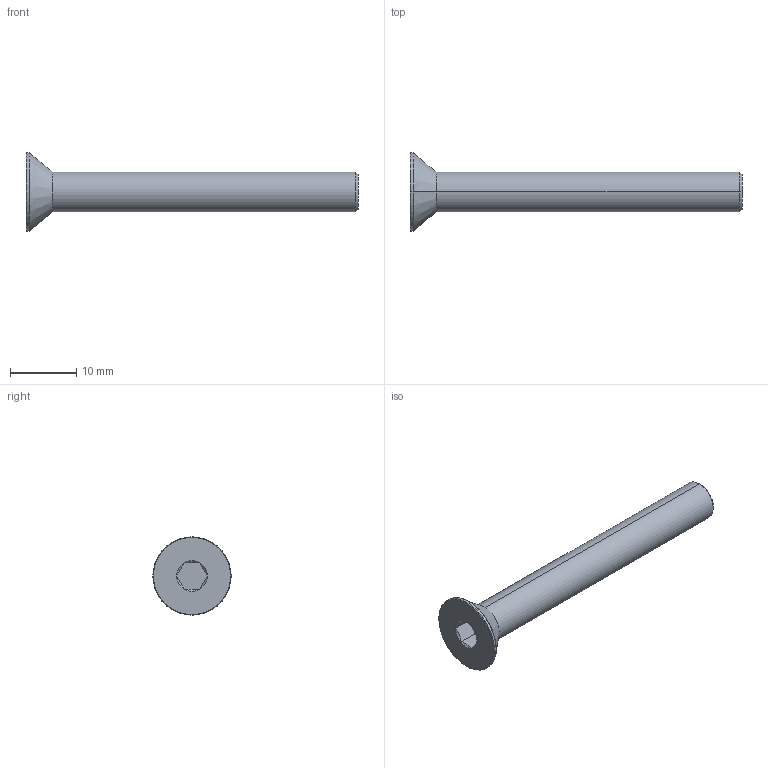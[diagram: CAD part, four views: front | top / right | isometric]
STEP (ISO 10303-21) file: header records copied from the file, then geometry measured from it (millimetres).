
FILE_DESCRIPTION (( 'STEP AP203' ), '1' );
FILE_NAME ('LGDB-304-M6x50.STEP', '2026-08-12T01:38:30', ( '' ), ( '' ), 'SwSTEP 2.0', 'SolidWorks 2020', '' );
FILE_SCHEMA (( 'CONFIG_CONTROL_DESIGN' ));
Length unit declared in the file: millimetre
Products named in the file (1): LGDB-304-M6x50
Bounding box: 50 x 11.8 x 11.8 mm (x, y, z)
Volume: 1537.3 mm3; surface area: 1184.1 mm2
Topology: 1 solids, 1 shells, 28 faces, 53 edges, 28 vertices
Faces by surface type: cone 11, plane 9, torus 4, cylinder 4
Entity records: 796 total; most frequent: CARTESIAN_POINT 157, DIRECTION 129, ORIENTED_EDGE 106, AXIS2_PLACEMENT_3D 54, EDGE_CURVE 53, EDGE_LOOP 29, FACE_OUTER_BOUND 28, VERTEX_POINT 28
